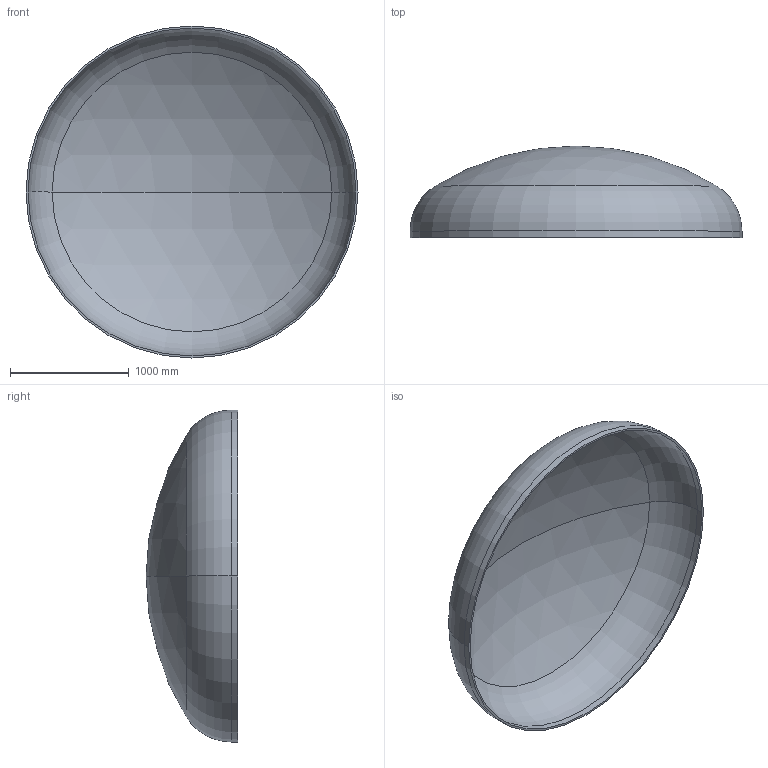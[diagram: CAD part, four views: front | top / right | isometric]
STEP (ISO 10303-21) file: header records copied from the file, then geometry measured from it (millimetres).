
FILE_DESCRIPTION (( 'STEP AP203' ), '1' );
FILE_NAME ('DIN 28013 Korbbogenform_-_Boden DIN 28013 - 2800 x 55 - I - s=17.step', '2016-07-01T16:45:08', ( '' ), ( '' ), 'SwSTEP 2.0', 'SolidWorks 2013', '' );
FILE_SCHEMA (( 'CONFIG_CONTROL_DESIGN' ));
Length unit declared in the file: millimetre
Products named in the file (1): DIN 28013 Korbbogenform_-_Boden DIN 28013 - 2800 x 55 - I - s=17
Bounding box: 2800 x 773.2 x 2800 mm (x, y, z)
Volume: 151918046 mm3; surface area: 18021941.5 mm2
Topology: 1 solids, 1 shells, 13 faces, 24 edges, 14 vertices
Faces by surface type: torus 4, cylinder 4, sphere 4, plane 1
Entity records: 407 total; most frequent: DIRECTION 72, CARTESIAN_POINT 52, ORIENTED_EDGE 48, AXIS2_PLACEMENT_3D 34, EDGE_CURVE 24, CIRCLE 20, VERTEX_POINT 14, EDGE_LOOP 14
